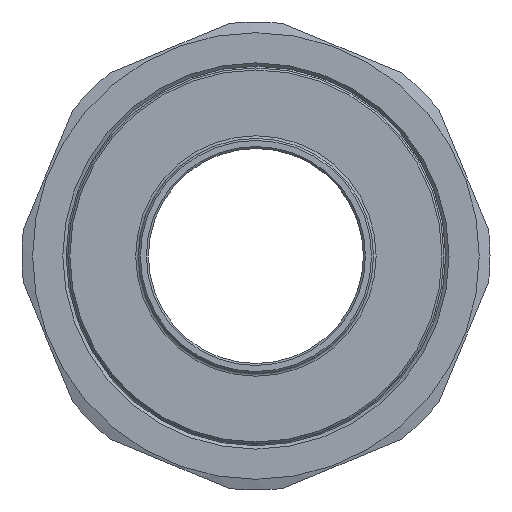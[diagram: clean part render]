
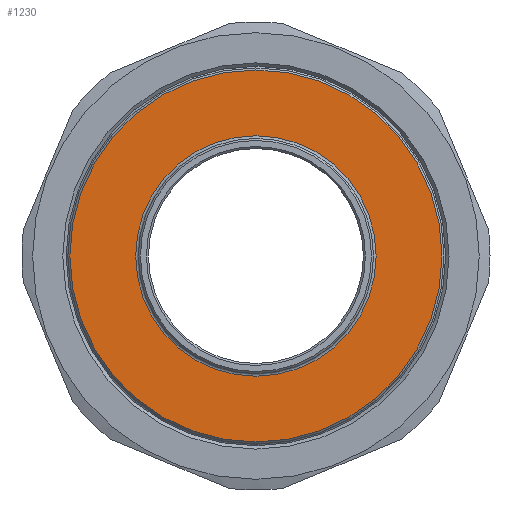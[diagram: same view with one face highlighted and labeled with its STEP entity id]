
A CAD part, left-side view. The second image highlights one B-rep face of the part: STEP entity #1230.
In plain terms, the highlighted planar face has unit normal (-1, 0, 0).
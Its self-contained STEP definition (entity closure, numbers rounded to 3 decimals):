
#58=FACE_BOUND('',#276,.T.);
#123=PLANE('',#1474);
#190=FACE_OUTER_BOUND('',#275,.T.);
#275=EDGE_LOOP('',(#1105));
#276=EDGE_LOOP('',(#1106));
#484=CIRCLE('',#1472,17.9);
#486=CIRCLE('',#1475,27.7);
#602=VERTEX_POINT('',#2295);
#603=VERTEX_POINT('',#2300);
#772=EDGE_CURVE('',#602,#602,#484,.T.);
#774=EDGE_CURVE('',#603,#603,#486,.T.);
#1105=ORIENTED_EDGE('',*,*,#774,.F.);
#1106=ORIENTED_EDGE('',*,*,#772,.F.);
#1230=ADVANCED_FACE('',(#190,#58),#123,.T.);
#1472=AXIS2_PLACEMENT_3D('',#2297,#1867,#1868);
#1474=AXIS2_PLACEMENT_3D('',#2299,#1871,#1872);
#1475=AXIS2_PLACEMENT_3D('',#2301,#1873,#1874);
#1867=DIRECTION('center_axis',(-1.,0.,0.));
#1868=DIRECTION('ref_axis',(0.,-1.,0.));
#1871=DIRECTION('center_axis',(-1.,0.,0.));
#1872=DIRECTION('ref_axis',(0.,0.,1.));
#1873=DIRECTION('center_axis',(1.,0.,0.));
#1874=DIRECTION('ref_axis',(0.,-1.,0.));
#2295=CARTESIAN_POINT('',(-14.,0.,17.9));
#2297=CARTESIAN_POINT('Origin',(-14.,0.,0.));
#2299=CARTESIAN_POINT('Origin',(-14.,28.,0.));
#2300=CARTESIAN_POINT('',(-14.,27.7,0.));
#2301=CARTESIAN_POINT('Origin',(-14.,0.,0.));
